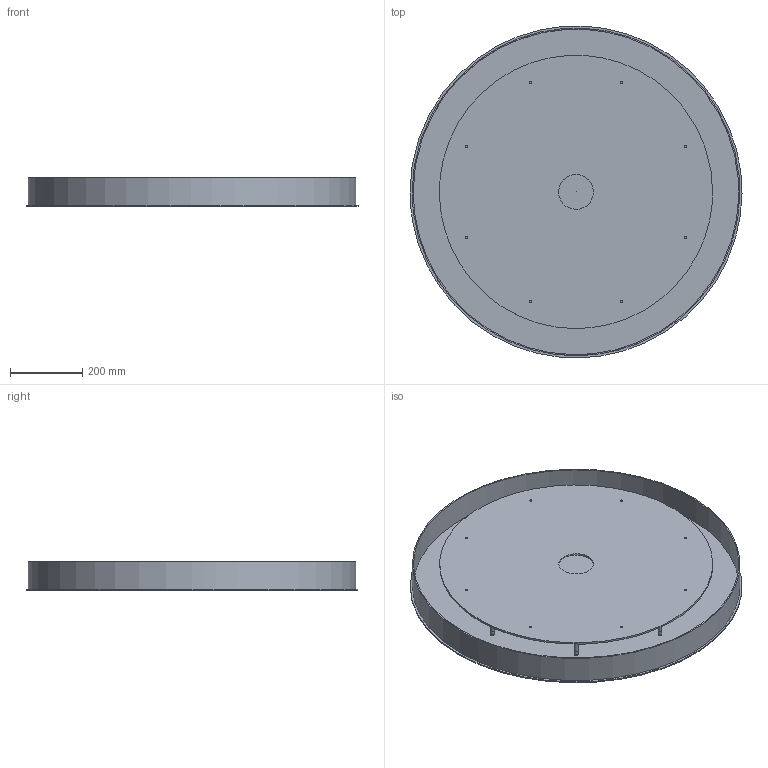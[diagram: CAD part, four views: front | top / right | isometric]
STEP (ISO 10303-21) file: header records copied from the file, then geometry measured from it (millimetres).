
FILE_DESCRIPTION(/* description */ (''),/* implementation_level */ '2;1');
FILE_NAME(/* name */ 'SkLO_Round_Canopy_36_MCR36_3D',/* time_stamp */ '2024-10-18T23:44:20+02:00',/* author */ (''),/* organization */ (''),/* preprocessor_version */ 'ST-DEVELOPER v16.5',/* originating_system */ 'Rhino 7.34',/* authorisation */ '');
FILE_SCHEMA (('CONFIG_CONTROL_DESIGN'));
Length unit declared in the file: millimetre
Products named in the file (1): Document
Bounding box: 915.97 x 915.5 x 78.26 mm (x, y, z)
Volume: 4830717.6 mm3; surface area: 2689436.2 mm2
Topology: 14 solids, 22 shells, 253 faces, 591 edges, 391 vertices
Faces by surface type: plane 100, cylinder 95, bspline 58
Full cylindrical faces by diameter (mm): 2.4 x9, 3 x12, 3.5 x6, 5.249 x8, 6 x8, 6.2 x15, 7 x8, 10 x8, 96 x1, 754 x1, 898 x1, 904 x1, 916 x1
Entity records: 16620 total; most frequent: CARTESIAN_POINT 12726, ORIENTED_EDGE 1122, EDGE_CURVE 565, VERTEX_POINT 364, EDGE_LOOP 319, ADVANCED_FACE 253, FACE_OUTER_BOUND 253, B_SPLINE_CURVE_WITH_KNOTS 222
